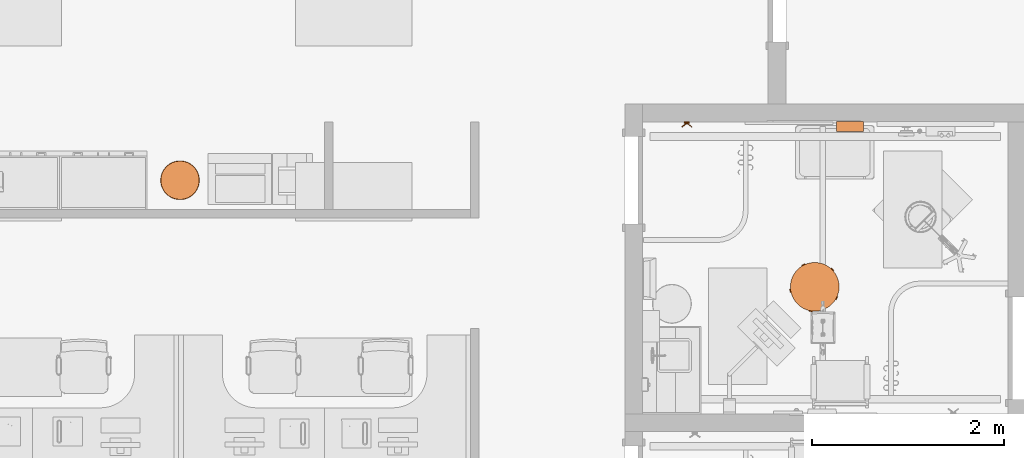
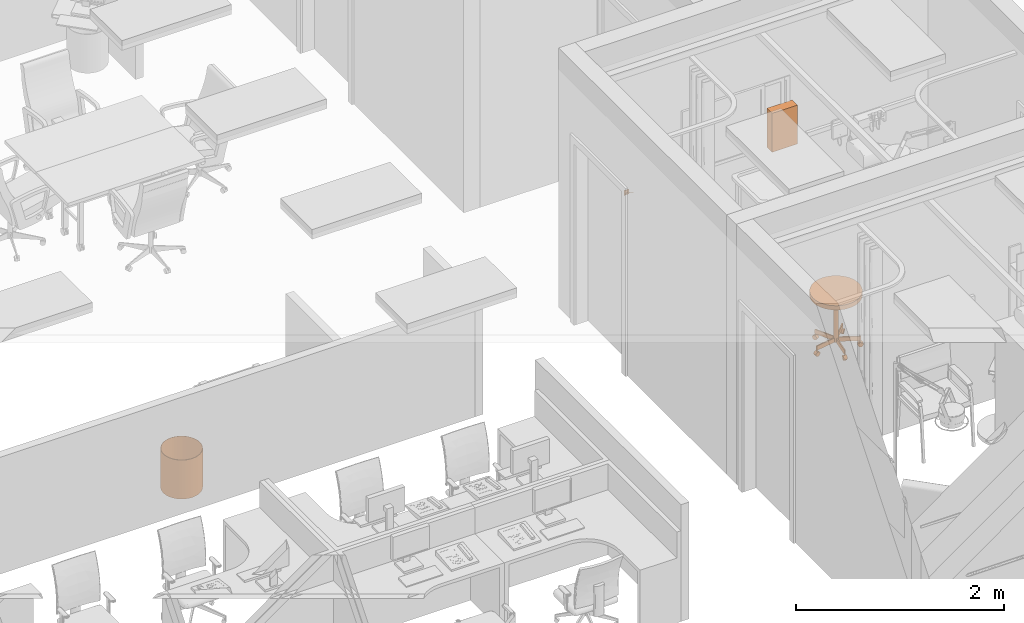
# One storey, part 108 of 142: 4 proxies.
"""IFC2X3 building model written with IfcOpenShell, lengths in feet."""

from ifc_helpers import new_model, entity, si_unit, converted_unit, derived_unit, direction, frame, frame_2d, origin, origin_2d_with_axis, place, context, subcontext, project, spatial, polyline, circle_curve, parameter, trimmed, segment, composite_curve, rectangle, circle, hollow_circle, outline, extrude, source, transform, mapped, type_object, type_shapes, element, save


model = new_model("IFC2X3")

# Units and contexts
model_context = context("Model", 3, precision=0.0001, world=origin(), true_north=direction((6.12303176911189e-17, 1.0)))
body_context = subcontext(model_context, "Body", "Model", "MODEL_VIEW")
ifc_project = project(units=[converted_unit("LENGTHUNIT", "FOOT", entity("IfcRatioMeasure", 0.3048), si_unit("LENGTHUNIT", "METRE"), dimensions=[1, 0, 0, 0, 0, 0, 0]), converted_unit("AREAUNIT", "SQUARE FOOT", entity("IfcRatioMeasure", 0.09290304), si_unit("AREAUNIT", "SQUARE_METRE"), dimensions=[2, 0, 0, 0, 0, 0, 0]), converted_unit("VOLUMEUNIT", "CUBIC FOOT", entity("IfcRatioMeasure", 0.028316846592), si_unit("VOLUMEUNIT", "CUBIC_METRE"), dimensions=[3, 0, 0, 0, 0, 0, 0]), converted_unit("PLANEANGLEUNIT", "DEGREE", entity("IfcRatioMeasure", 0.0174532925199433), si_unit("PLANEANGLEUNIT", "RADIAN"), dimensions=[0, 0, 0, 0, 0, 0, 0]), si_unit("MASSUNIT", "GRAM", prefix="KILO"), derived_unit("MASSDENSITYUNIT", [(si_unit("MASSUNIT", "GRAM", prefix="KILO"), 1), (si_unit("LENGTHUNIT", "METRE"), -3)]), si_unit("TIMEUNIT", "SECOND"), si_unit("FREQUENCYUNIT", "HERTZ"), si_unit("THERMODYNAMICTEMPERATUREUNIT", "DEGREE_CELSIUS"), derived_unit("THERMALTRANSMITTANCEUNIT", [(si_unit("MASSUNIT", "GRAM", prefix="KILO"), 1), (si_unit("THERMODYNAMICTEMPERATUREUNIT", "KELVIN"), -1), (si_unit("TIMEUNIT", "SECOND"), -3)]), derived_unit("VOLUMETRICFLOWRATEUNIT", [(si_unit("LENGTHUNIT", "METRE"), 3), (si_unit("TIMEUNIT", "SECOND"), -1)]), si_unit("ELECTRICCURRENTUNIT", "AMPERE"), si_unit("ELECTRICVOLTAGEUNIT", "VOLT"), si_unit("POWERUNIT", "WATT"), si_unit("FORCEUNIT", "NEWTON"), si_unit("ILLUMINANCEUNIT", "LUX"), si_unit("LUMINOUSFLUXUNIT", "LUMEN"), si_unit("LUMINOUSINTENSITYUNIT", "CANDELA"), derived_unit("USERDEFINED", [(si_unit("MASSUNIT", "GRAM", prefix="KILO"), -1), (si_unit("LENGTHUNIT", "METRE"), -2), (si_unit("TIMEUNIT", "SECOND"), 3), (si_unit("LUMINOUSFLUXUNIT", "LUMEN"), 1)]), derived_unit("LINEARVELOCITYUNIT", [(si_unit("LENGTHUNIT", "METRE"), 1), (si_unit("TIMEUNIT", "SECOND"), -1)]), si_unit("PRESSUREUNIT", "PASCAL"), derived_unit("USERDEFINED", [(si_unit("LENGTHUNIT", "METRE"), -2), (si_unit("MASSUNIT", "GRAM", prefix="KILO"), 1), (si_unit("TIMEUNIT", "SECOND"), -2)])], contexts=[model_context])

# Site, building, storey, space
site_placement = place(None, origin())
site = spatial("IfcSite", under=ifc_project, at=site_placement, Name="Default", CompositionType="ELEMENT")
building_placement = place(site_placement, origin())
building = spatial("IfcBuilding", under=site, at=building_placement, Name="OUTPATIENT / PACT CLINIC (Ch. 265)", CompositionType="ELEMENT")
storey_placement = place(building_placement, origin())
storey = spatial("IfcBuildingStorey", under=building, at=storey_placement, Name="LEVEL 1", CompositionType="ELEMENT", Elevation=0.0)
space_1_placement = place(storey_placement, origin())
space_1 = spatial("IfcSpace", under=storey, at=space_1_placement, Name="RCA02", CompositionType="ELEMENT", InteriorOrExteriorSpace="INTERNAL")

# Proxy
building_element_proxy_type_1 = type_object("IfcBuildingElementProxyType", Name="F2000 - Basket, Wastepaper", PredefinedType="NOTDEFINED")
shared_shape_1 = source(origin(), body_context, "Body", "SweptSolid", [
    extrude(circle(Radius=0.666666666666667, at=frame_2d((0.0, -1.07702971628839e-15), x_axis=(1.0, 0.0))), origin(), (0.0, 0.0, 1.0), 0.0104166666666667),
    extrude(hollow_circle(Radius=0.666666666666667, WallThickness=0.0104166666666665, at=frame_2d((0.0, -1.07702971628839e-15), x_axis=(1.0, 0.0))), frame((0.0, 0.0, 0.0104166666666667)), (0.0, 0.0, 1.0), 1.48958333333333),
])
type_shapes(building_element_proxy_type_1, [shared_shape_1])
proxy_1_placement = place(space_1_placement, frame((419.41402116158, -912.837185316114, 0.0), z_axis=(0.0, 0.0, 1.0), x_axis=(0.0, 1.0, 0.0)))
element("IfcBuildingElementProxy", 1, at=proxy_1_placement, inside=space_1, type_object=building_element_proxy_type_1, Name="F2000 - Basket, Wastepaper:F2000 - Basket, Wastepaper", ObjectType="F2000 - Basket, Wastepaper", context=body_context, shape_type="MappedRepresentation", body=[
    mapped(shared_shape_1, transform((0.0, 0.0, 0.0), scale=1.0)),
])

# Space
space_2_placement = place(storey_placement, origin())
space_2 = spatial("IfcSpace", under=storey, at=space_2_placement, Name="EXPA1", CompositionType="ELEMENT", InteriorOrExteriorSpace="INTERNAL")

# Proxies
building_element_proxy_type_2 = type_object("IfcBuildingElementProxyType", Name="F0340 - Stool, Self Adjusting", PredefinedType="NOTDEFINED")
shared_shape_2 = source(origin(), body_context, "Body", "SweptSolid", [
    extrude(circle(Radius=0.084518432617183, at=frame_2d((0.0, -1.38777878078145e-16), x_axis=(1.0, 0.0))), frame((0.717011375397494, 0.287734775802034, 0.0845184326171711), z_axis=(0.309016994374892, -0.951056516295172, 0.0), x_axis=(-0.951056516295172, -0.309016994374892, 0.0)), (0.0, 0.0, 1.0), 0.104166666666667),
    extrude(outline(composite_curve([segment(polyline([(-0.0925649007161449, 0.0), (0.0925649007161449, 0.0)]), True, "CONTINUOUS"), segment(trimmed(circle_curve(origin_2d_with_axis(), 0.0925649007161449), [parameter(2.03555499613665e-13)], [parameter(180.0)], True, "PARAMETER"), True, "CONTINUOUS")], self_intersect=False)), frame((0.752419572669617, 0.178759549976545, 0.0845184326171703), z_axis=(-0.309016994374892, 0.951056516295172, 0.0), x_axis=(-0.951056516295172, -0.309016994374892, 0.0)), (0.0, 0.0, 1.0), 0.125),
    extrude(circle(Radius=0.0115130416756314, at=frame_2d((7.9106571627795e-18, 1.14165428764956e-16), x_axis=(1.0, 0.0))), frame((0.73310678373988, 0.238198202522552, 0.177083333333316), z_axis=(0.0, 0.0, 1.0), x_axis=(0.309016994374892, -0.951056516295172, 0.0)), (0.0, 0.0, 1.0), 0.0442708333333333),
    extrude(rectangle(XDim=0.0416641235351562, YDim=0.7059128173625, at=frame_2d((1.38777878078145e-17, 0.0), x_axis=(1.0, 0.0))), frame((0.412570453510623, 0.134049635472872, 0.221354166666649), z_axis=(0.0, 0.0, 1.0), x_axis=(-0.309016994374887, 0.951056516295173, 0.0)), (0.0, 0.0, 1.0), 0.166666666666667),
    extrude(circle(Radius=0.084518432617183, at=frame_2d((0.0, -3.7470027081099e-16), x_axis=(1.0, 0.0))), frame((0.410948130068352, -0.654231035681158, 0.0845184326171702), z_axis=(0.809016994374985, 0.587785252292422, 0.0), x_axis=(-0.587785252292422, 0.809016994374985, 0.0)), (0.0, 0.0, 1.0), 0.104166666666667),
    extrude(outline(composite_curve([segment(polyline([(-0.0925649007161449, 0.0), (0.0925649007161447, 0.0)]), True, "CONTINUOUS"), segment(trimmed(circle_curve(origin_2d_with_axis(), 0.0925649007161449), [parameter(2.03555499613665e-13)], [parameter(180.0)], True, "PARAMETER"), True, "CONTINUOUS")], self_intersect=False)), frame((0.402520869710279, -0.660353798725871, 0.0845184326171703), z_axis=(0.809016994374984, 0.587785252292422, 0.0), x_axis=(-0.587785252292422, 0.809016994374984, 0.0)), (0.0, 0.0, 1.0), 0.125),
    extrude(circle(Radius=0.0115130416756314, at=origin_2d_with_axis()), frame((0.453082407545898, -0.623618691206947, 0.177083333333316), z_axis=(0.0, 0.0, 1.0), x_axis=(-0.809016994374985, -0.587785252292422, 0.0)), (0.0, 0.0, 1.0), 0.0442708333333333),
    extrude(rectangle(XDim=0.0416641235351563, YDim=0.705912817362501, at=frame_2d((0.0, -1.38777878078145e-16), x_axis=(1.0, 0.0))), frame((0.254980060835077, -0.350954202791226, 0.221354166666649), z_axis=(0.0, 0.0, 1.0), x_axis=(0.809016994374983, 0.587785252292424, 0.0)), (0.0, 0.0, 1.0), 0.166666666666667),
    extrude(circle(Radius=0.084518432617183, at=frame_2d((-3.2628636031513e-17, -1.38777878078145e-16), x_axis=(1.0, 0.0))), frame((-0.410948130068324, -0.654231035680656, 0.0845184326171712), z_axis=(-0.809016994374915, 0.587785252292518, 0.0), x_axis=(0.587785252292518, 0.809016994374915, 0.0)), (0.0, 0.0, 1.0), 0.104166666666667),
    extrude(outline(composite_curve([segment(trimmed(circle_curve(origin_2d_with_axis(), 0.0925649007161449), [parameter(180.0)], [parameter(360.0)], True, "PARAMETER"), True, "CONTINUOUS"), segment(polyline([(0.0925649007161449, 0.0), (-0.0925649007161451, 0.0)]), True, "CONTINUOUS")], self_intersect=False)), frame((-0.402520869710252, -0.66035379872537, 0.0845184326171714), z_axis=(-0.809016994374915, 0.587785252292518, 0.0), x_axis=(0.587785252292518, 0.809016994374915, 0.0)), (0.0, 0.0, 1.0), 0.125),
    extrude(circle(Radius=0.0115130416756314, at=frame_2d((-4.49094647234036e-17, -3.2628636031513e-17), x_axis=(1.0, 0.0))), frame((-0.453086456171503, -0.623615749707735, 0.177083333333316), z_axis=(0.0, 0.0, 1.0), x_axis=(-0.809016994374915, 0.587785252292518, 0.0)), (0.0, 0.0, 1.0), 0.0442708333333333),
    extrude(rectangle(XDim=0.0416641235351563, YDim=0.7059128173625, at=frame_2d((-4.16333634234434e-17, 5.55111512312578e-17), x_axis=(1.0, 0.0))), frame((-0.254984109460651, -0.350951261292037, 0.221354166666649), z_axis=(0.0, 0.0, 1.0), x_axis=(0.809016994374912, -0.587785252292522, 0.0)), (0.0, 0.0, 1.0), 0.166666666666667),
    extrude(circle(Radius=0.084518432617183, at=frame_2d((0.0, -1.38777878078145e-16), x_axis=(1.0, 0.0))), frame((-0.749200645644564, 0.188666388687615, 0.0845184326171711), z_axis=(0.309016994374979, 0.951056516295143, 0.0), x_axis=(0.951056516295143, -0.309016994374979, 0.0)), (0.0, 0.0, 1.0), 0.104166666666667),
    extrude(outline(composite_curve([segment(trimmed(circle_curve(origin_2d_with_axis(), 0.0925649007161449), [parameter(180.0)], [parameter(360.0)], True, "PARAMETER"), True, "CONTINUOUS"), segment(polyline([(0.0925649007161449, 0.0), (-0.0925649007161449, 0.0)]), True, "CONTINUOUS")], self_intersect=False)), frame((-0.752419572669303, 0.178759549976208, 0.0845184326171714), z_axis=(0.309016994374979, 0.951056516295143, 0.0), x_axis=(0.951056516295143, -0.309016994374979, 0.0)), (0.0, 0.0, 1.0), 0.125),
    extrude(circle(Radius=0.0115130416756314, at=frame_2d((7.91065716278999e-18, -1.14165428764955e-16), x_axis=(1.0, 0.0))), frame((-0.733105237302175, 0.238202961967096, 0.177083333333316), z_axis=(0.0, 0.0, 1.0), x_axis=(0.309016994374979, 0.951056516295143, 0.0)), (0.0, 0.0, 1.0), 0.0442708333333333),
    extrude(rectangle(XDim=0.0416641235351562, YDim=0.7059128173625, at=origin_2d_with_axis()), frame((-0.412568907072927, 0.134054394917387, 0.221354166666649), z_axis=(0.0, 0.0, 1.0), x_axis=(-0.309016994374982, -0.951056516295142, 0.0)), (0.0, 0.0, 1.0), 0.166666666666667),
    extrude(circle(Radius=0.084518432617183, at=frame_2d((-1.76415182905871e-31, -1.38777878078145e-16), x_axis=(1.0, 0.0))), frame((-0.0520833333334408, 0.770833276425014, 0.0845184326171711), z_axis=(1.0, 0.0, 0.0), x_axis=(0.0, -1.0, 0.0)), (0.0, 0.0, 1.0), 0.104166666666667),
    extrude(outline(composite_curve([segment(trimmed(circle_curve(origin_2d_with_axis(), 0.0925649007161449), [parameter(180.0)], [parameter(360.0)], True, "PARAMETER"), True, "CONTINUOUS"), segment(polyline([(0.0925649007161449, 0.0), (-0.0925649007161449, 0.0)]), True, "CONTINUOUS")], self_intersect=False)), frame((-0.0625000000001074, 0.770833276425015, 0.0845184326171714), z_axis=(1.0, 0.0, 0.0), x_axis=(0.0, -1.0, 0.0)), (0.0, 0.0, 1.0), 0.125),
    extrude(circle(Radius=0.0115130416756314, at=frame_2d((7.04731412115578e-19, 1.79171670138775e-32), x_axis=(1.0, 0.0))), frame((2.50218814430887e-06, 0.770833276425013, 0.177083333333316)), (0.0, 0.0, 1.0), 0.0442708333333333),
    extrude(rectangle(XDim=0.0416641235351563, YDim=0.7059128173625, at=frame_2d((3.46944695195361e-18, 5.55111512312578e-17), x_axis=(1.0, 0.0))), frame((2.50218813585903e-06, 0.433801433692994, 0.221354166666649), z_axis=(0.0, 0.0, 1.0), x_axis=(-1.0, 0.0, 0.0)), (0.0, 0.0, 1.0), 0.166666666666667),
    extrude(circle(Radius=0.0834863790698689, at=frame_2d((2.89333175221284e-18, -1.34875966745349e-16), x_axis=(1.0, 0.0))), frame((0.0, 0.0, 0.221354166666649)), (0.0, 0.0, 1.0), 1.77864583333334),
    extrude(circle(Radius=0.833333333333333, at=frame_2d((2.28760446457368e-17, -1.34628714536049e-15), x_axis=(1.0, 0.0))), frame((0.0, 0.0, 2.0)), (0.0, 0.0, 1.0), 0.166666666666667),
])
type_shapes(building_element_proxy_type_2, [shared_shape_2])
proxy_2_placement = place(space_2_placement, frame((441.145232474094, -916.486502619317, 0.0), z_axis=(0.0, 0.0, 1.0), x_axis=(0.707106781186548, -0.707106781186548, 0.0)))
element("IfcBuildingElementProxy", 2, at=proxy_2_placement, inside=space_2, type_object=building_element_proxy_type_2, Name="F0340 - Stool, Self Adjusting:F0340 - Stool, Self Adjusting", ObjectType="F0340 - Stool, Self Adjusting", context=body_context, shape_type="MappedRepresentation", body=[
    mapped(shared_shape_2, transform((0.0, 0.0, 0.0), scale=1.0)),
])
building_element_proxy_type_3 = type_object("IfcBuildingElementProxyType", Name="A5145 - Hook, Garment, Double", PredefinedType="NOTDEFINED")
shared_shape_3 = source(origin(), body_context, "Body", "SweptSolid", [
    extrude(circle(Radius=0.0105952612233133, at=frame_2d((-1.64551454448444e-31, -4.16333634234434e-17), x_axis=(1.0, 0.0))), frame((-0.169086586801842, -0.168481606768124, 0.0833333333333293), z_axis=(0.799999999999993, 0.60000000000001, 0.0), x_axis=(0.60000000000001, -0.799999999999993, 0.0)), (0.0, 0.0, 1.0), 0.211358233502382),
    extrude(circle(Radius=0.0105952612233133, at=frame_2d((5.2041704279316e-19, 2.77555756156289e-17), x_axis=(1.0, 0.0))), frame((0.0, -0.0416666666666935, 0.083333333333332), z_axis=(0.799999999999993, -0.60000000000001, 0.0), x_axis=(-0.60000000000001, -0.799999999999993, 0.0)), (0.0, 0.0, 1.0), 0.211358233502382),
    extrude(rectangle(XDim=0.0416666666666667, YDim=0.166666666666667, at=origin_2d_with_axis()), frame((0.0, -0.0208333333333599, 0.0), z_axis=(0.0, 0.0, 1.0), x_axis=(0.0, 1.0, 0.0)), (0.0, 0.0, 1.0), 0.166666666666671),
])
type_shapes(building_element_proxy_type_3, [shared_shape_3])
proxy_3_placement = place(space_2_placement, frame((436.765393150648, -910.837175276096, 4.0)))
element("IfcBuildingElementProxy", 3, at=proxy_3_placement, inside=space_2, type_object=building_element_proxy_type_3, Name="A5145 - Hook, Garment, Double:A5145 - Hook, Garment, Double", ObjectType="A5145 - Hook, Garment, Double", context=body_context, shape_type="MappedRepresentation", body=[
    mapped(shared_shape_3, transform((0.0, 0.0, 0.0), scale=1.0)),
])
building_element_proxy_type_4 = type_object("IfcBuildingElementProxyType", Name="A5107 - Dispenser, Glove, Surgical-Examination, Wall Mntd 10\"x 4\"", PredefinedType="NOTDEFINED")
shared_shape_4 = source(origin(), body_context, "Body", "SweptSolid", [
    extrude(rectangle(XDim=0.333333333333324, YDim=0.916666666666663, at=frame_2d((-1.38777878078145e-17, 0.0), x_axis=(1.0, 0.0))), frame((0.0, 0.166666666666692, 0.0), z_axis=(0.0, 0.0, 1.0), x_axis=(0.0, 1.0, 0.0)), (0.0, 0.0, 1.0), 1.5),
])
type_shapes(building_element_proxy_type_4, [shared_shape_4])
proxy_4_placement = place(space_2_placement, frame((442.353934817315, -910.827430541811, 4.0), z_axis=(0.0, 0.0, 1.0), x_axis=(-1.0, 0.0, 0.0)))
element("IfcBuildingElementProxy", 4, at=proxy_4_placement, inside=space_2, type_object=building_element_proxy_type_4, Name="A5107 - Dispenser, Glove, Surgical-Examination, Wall Mntd1:A5107 - Dispenser, Glove, Surgical-Examination, Wall Mntd 10\"x 4\"", ObjectType="A5107 - Dispenser, Glove, Surgical-Examination, Wall Mntd 10\"x 4\"", context=body_context, shape_type="MappedRepresentation", body=[
    mapped(shared_shape_4, transform((0.0, 0.0, 0.0), scale=1.0)),
])

save(model, "model.ifc")
